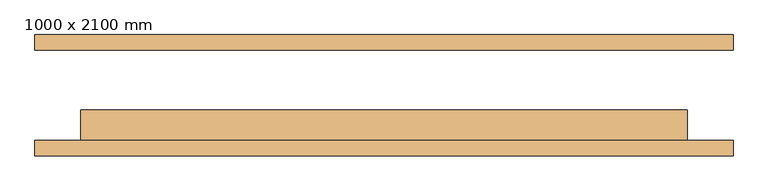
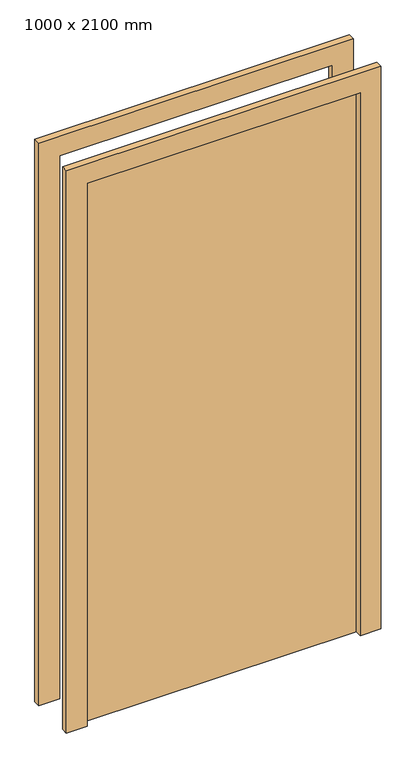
"""IFC4 building model written with IfcOpenShell, lengths in millimetres: door geometry, M_Folha única : 1000 x 2100 mm."""

from ifc_helpers import new_model, si_unit, frame, origin, origin_with_axes, place, context, project, spatial, polyline, outline, extrude, source, transform, mapped, element, save


def door_1000_x_2100_mm_661a7a0d(model_context):
    return source(origin(), model_context, "Body", "SweptSolid", [
        extrude(outline(polyline([(2176.0, -576.0), (0.0, -576.0), (0.0, -500.0), (2100.0, -500.0), (2100.0, 500.0), (0.0, 500.0), (0.0, 576.0), (2176.0, 576.0), (2176.0, -576.0)])), frame((0.0, -100.0, 0.0), z_axis=(0.0, 1.0, 0.0), x_axis=(0.0, 0.0, 1.0)), (0.0, 0.0, 1.0), 25.0),
        extrude(outline(polyline([(2176.0, 576.0), (2176.0, -576.0), (0.0, -576.0), (0.0, -500.0), (2100.0, -500.0), (2100.0, 500.0), (0.0, 500.0), (0.0, 576.0), (2176.0, 576.0)])), frame((0.0, 75.0, 0.0), z_axis=(0.0, 1.0, 0.0), x_axis=(0.0, 0.0, 1.0)), (0.0, 0.0, 1.0), 25.0),
        extrude(outline(polyline([(500.0, -24.0), (500.0, -75.0), (-500.0, -75.0), (-500.0, -24.0), (500.0, -24.0)])), origin_with_axes(), (0.0, 0.0, 1.0), 2100.0),
    ])


if __name__ == "__main__":
    model = new_model("IFC4")
    model_context = context("Model", 3, world=origin())
    ifc_project = project(units=[si_unit("LENGTHUNIT", "METRE", prefix="MILLI")], contexts=[model_context])
    site = spatial("IfcSite", under=ifc_project)
    building = spatial("IfcBuilding", under=site)
    placement = place(None, origin())
    door_1000_x_2100_mm_shape = door_1000_x_2100_mm_661a7a0d(model_context)
    element("IfcDoor", 1, ObjectType="M_Folha única : 1000 x 2100 mm", at=placement, inside=building, context=model_context, shape_type="MappedRepresentation", body=[
        mapped(door_1000_x_2100_mm_shape, transform((0.0, 0.0, 0.0), x_axis=(1.0, 0.0, 0.0), y_axis=(0.0, 1.0, 0.0), z_axis=(0.0, 0.0, 1.0))),
    ])
    save(model, "model.ifc")
